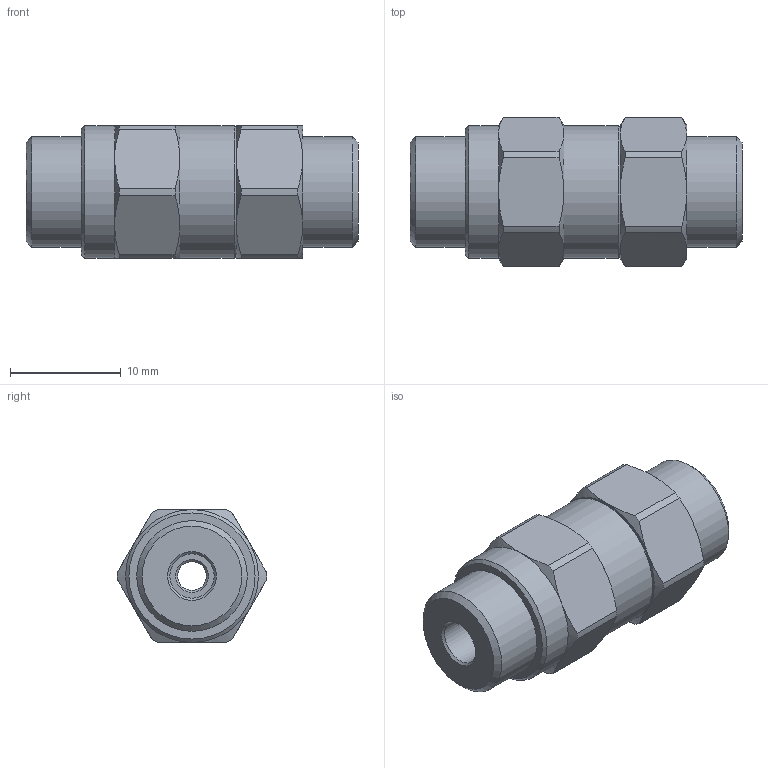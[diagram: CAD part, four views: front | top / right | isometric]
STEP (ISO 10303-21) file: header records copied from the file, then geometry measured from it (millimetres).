
FILE_DESCRIPTION(('STEP AP214'),'1');
FILE_NAME('BVP-10-A41.stp','2026-02-02T08:00:03',(' '),(' '),'Spatial InterOp 3D',' ',' ');
FILE_SCHEMA(('AUTOMOTIVE_DESIGN { 1 0 10303 214 1 1 1 1 }'));
Length unit declared in the file: millimetre
Products named in the file (1): BVP-10-A41
Bounding box: 30 x 13.5 x 12 mm (x, y, z)
Volume: 2856.2 mm3; surface area: 1745.4 mm2
Topology: 1 solids, 3 shells, 77 faces, 174 edges, 107 vertices
Faces by surface type: cone 33, plane 22, cylinder 22
Full cylindrical faces by diameter (mm): 2.6 x1, 4 x2, 8 x2, 8.1 x1, 10 x2, 12 x2
Entity records: 3183 total; most frequent: CARTESIAN_POINT 504, DIRECTION 330, ORIENTED_EDGE 294, STYLED_ITEM 180, PRESENTATION_STYLE_ASSIGNMENT 180, COLOUR_RGB 180, AXIS2_PLACEMENT_3D 153, EDGE_CURVE 147
